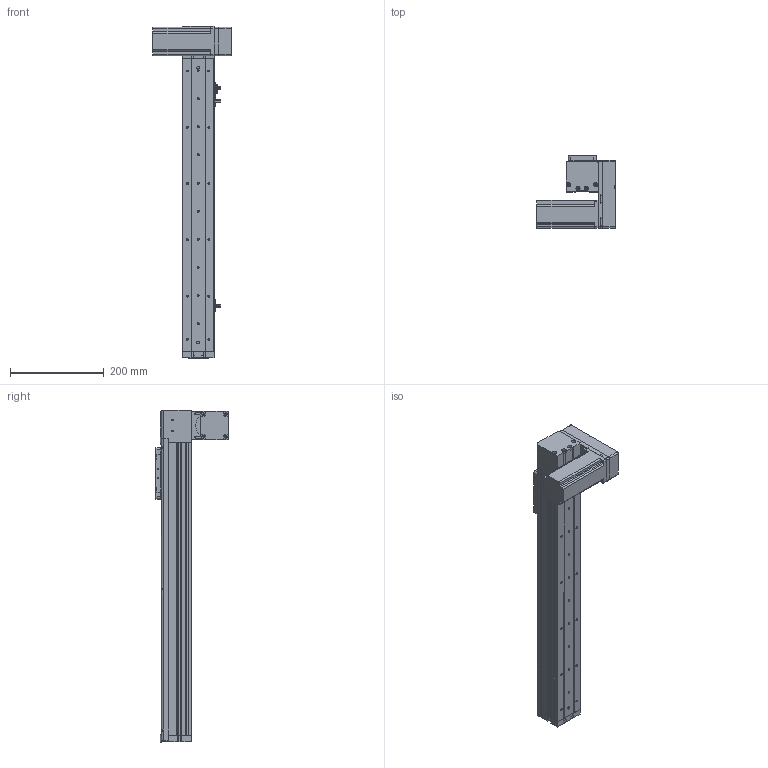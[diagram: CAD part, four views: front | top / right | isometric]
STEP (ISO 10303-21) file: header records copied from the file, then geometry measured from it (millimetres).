
FILE_DESCRIPTION (( 'STEP AP214' ), '1' );
FILE_NAME ('KSD68BS-S450-MLD-CR.STEP', '2019-11-07T05:30:43', ( '微软用户' ), ( '微软中国' ), 'SwSTEP 2.0', 'SolidWorks 2014', '' );
FILE_SCHEMA (( 'AUTOMOTIVE_DESIGN' ));
Length unit declared in the file: millimetre
Products named in the file (14): KSD68BS 450行程底板全封闭; KSD68BS-S450-MLD-CR; KSD68BS 450行程盖板全封闭; 68遵裔啣揤啣1; 68宽单导轨全封闭丝杆传动安装板1防护罩; KSD68BS 450行程侧板全封闭; 68宽单导轨全封闭同步带端板; 68单导轨全封闭同步带电机座左; 68单导轨全封闭同步带安装板; 悵誘欶奻狟殏; 68宽马达安装板连板上折同步带; 感应片68宽全封闭; U倰嫖萇EEㄜSX672; 台达ECMA－C20604AS伺服电机（400W)
Assembly tree (17 placements, depth 2):
  KSD68BS-S450-MLD-CR
    KSD68BS 450行程底板全封闭
    台达ECMA－C20604AS伺服电机（400W)
    U倰嫖萇EEㄜSX672  x3
    感应片68宽全封闭
    68宽马达安装板连板上折同步带
    悵誘欶奻狟殏
    68单导轨全封闭同步带安装板
    68单导轨全封闭同步带电机座左
    68宽单导轨全封闭同步带端板
    KSD68BS 450行程侧板全封闭  x2
    68宽单导轨全封闭丝杆传动安装板1防护罩
    68遵裔啣揤啣1  x2
    KSD68BS 450行程盖板全封闭
Bounding box: 167.2 x 155.5 x 708.1 mm (x, y, z)
Volume: 1795933.2 mm3; surface area: 621937.1 mm2
Topology: 18 solids, 18 shells, 1387 faces, 3909 edges, 2514 vertices
Faces by surface type: cylinder 630, plane 621, cone 136
Entity records: 43175 total; most frequent: CARTESIAN_POINT 7293, DIRECTION 6524, ORIENTED_EDGE 6254, EDGE_CURVE 3127, AXIS2_PLACEMENT_3D 2325, VERTEX_POINT 2052, VECTOR 1874, LINE 1874
